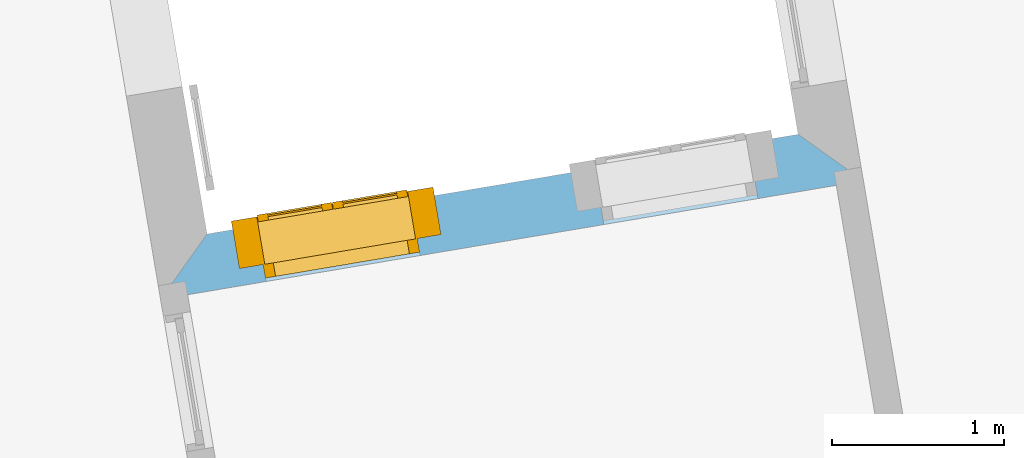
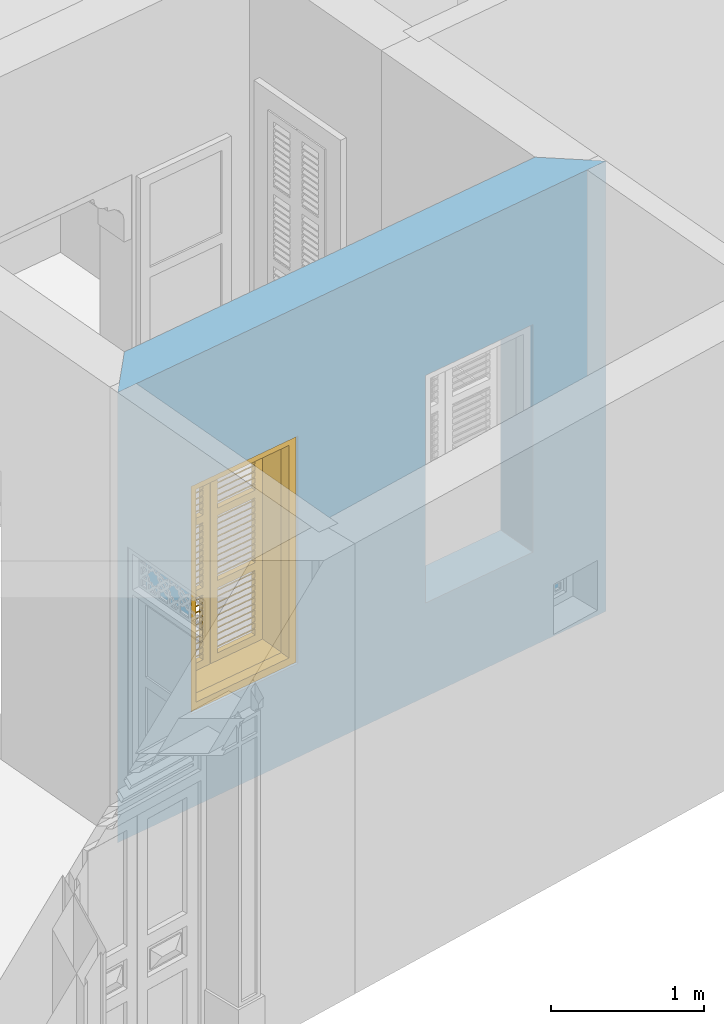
# One storey, part 7 of 15: 1 window, 2 openings, plus 1 element that does not belong to this part.
"""IFC4 building model written with IfcOpenShell, lengths in metres."""

from ifc_helpers import new_model, si_unit, frame, origin, origin_with_axes, place, context, subcontext, project, spatial, polyline, outline, extrude, faceted_brep, source, transform, mapped, material, layer, layer_set, layer_usage, type_object, type_shapes, element, fill, save


model = new_model("IFC4")

# Units and contexts
model_context = context("Model", 3, world=origin_with_axes())
body_context = subcontext(model_context, "Body", "Model", "MODEL_VIEW")
ifc_project = project(units=[si_unit("PLANEANGLEUNIT", "RADIAN"), si_unit("MASSUNIT", "GRAM", prefix="KILO"), si_unit("FORCEUNIT", "NEWTON", prefix="KILO"), si_unit("LENGTHUNIT", "METRE"), si_unit("AREAUNIT", "SQUARE_METRE"), si_unit("VOLUMEUNIT", "CUBIC_METRE")], contexts=[model_context, model_context])

# Site, building, storey
site_placement = place(None, origin_with_axes())
site = spatial("IfcSite", under=ifc_project, at=site_placement, Name="Site plot-6", CompositionType="ELEMENT")
building_placement = place(None, origin_with_axes())
building = spatial("IfcBuilding", under=site, at=building_placement, Name="Building plot-6", CompositionType="ELEMENT")
storey_placement = place(None, origin_with_axes())
storey = spatial("IfcBuildingStorey", under=building, at=storey_placement, Name="plot-6 0", CompositionType="ELEMENT", Elevation=0.0)

# Wall, openings, window
ifc_material = material(Name="Masonry")
ifc_layer = layer(ifc_material, 0.33, ventilated=False)
ifc_layer_set = layer_set([ifc_layer], Name="exterior_0.08_0.25")
ifc_layer_usage = layer_usage(ifc_layer_set, "AXIS2", "POSITIVE", -0.25)
wall_type = type_object("IfcWallType", Name="exterior_0.08_0.25", PredefinedType="SOLIDWALL", material=ifc_layer_set)
wall_placement = place(storey_placement, frame((-2.44228456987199, -0.0610171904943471, 0.0), z_axis=(0.0, 0.0, 1.0), x_axis=(-0.986076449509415, -0.166292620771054, 0.0)))
wall = element("IfcWall", 1, at=wall_placement, inside=storey, type_object=wall_type, material=ifc_layer_usage, Name="exterior", context=body_context, shape_type="SweptSolid", body=[
    extrude(outline(polyline([(-0.0799999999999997, 0.080000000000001), (0.249999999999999, -0.250000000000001), (3.73805094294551, -0.250000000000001), (4.06805094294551, 0.0799999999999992), (-0.0799999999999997, 0.080000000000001)])), origin_with_axes(), (0.0, 0.0, 1.0), 3.6),
])
opening_1_placement = place(wall_placement, frame((0.542012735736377, 0.0, 0.75)))
element("IfcOpeningElement", 2, at=opening_1_placement, cuts=wall, Name="My Opening", ObjectType="Opening", context=body_context, shape_type="SweptSolid", body=[
    extrude(outline(polyline([(0.0, -0.27), (0.91, -0.27), (0.91, 1.1), (0.0, 1.1), (0.0, -0.27)])), origin_with_axes(), (0.0, 0.0, 1.0), 1.82),
])
opening_2_placement = place(wall_placement, frame((2.53603820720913, 0.0, 0.75)))
opening_2 = element("IfcOpeningElement", 3, at=opening_2_placement, cuts=wall, Name="My Opening", ObjectType="Opening", context=body_context, shape_type="SweptSolid", body=[
    extrude(outline(polyline([(0.0, -0.27), (0.91, -0.27), (0.91, 1.1), (4.44089209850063e-16, 1.1), (0.0, -0.27)])), origin_with_axes(), (0.0, 0.0, 1.0), 1.82),
])
window_type = type_object("IfcWindowType", Name="shuttered_big", PartitioningType="DOUBLE_PANEL_HORIZONTAL", PredefinedType="NOTDEFINED")
shared_shape = source(origin(), body_context, "Body", "Brep", [
    faceted_brep([(0.074, 0.0, 0.810667), (0.393, 0.0, 0.810667), (0.393, 0.0, 0.800667), (0.074, 0.0, 0.800667), (0.074, -0.04, 0.770667), (0.393, -0.04, 0.770667), (0.393, -0.04, 0.760667), (0.074, -0.04, 0.760667), (0.517, 0.0, 0.232), (0.836, 0.0, 0.232), (0.836, 0.0, 0.222), (0.517, 0.0, 0.222), (0.517, -0.04, 0.192), (0.836, -0.04, 0.192), (0.836, -0.04, 0.182), (0.517, -0.04, 0.182), (0.517, 0.0, 0.532), (0.836, 0.0, 0.532), (0.836, 0.0, 0.522), (0.517, 0.0, 0.522), (0.517, -0.04, 0.492), (0.836, -0.04, 0.492), (0.836, -0.04, 0.482), (0.517, -0.04, 0.482), (0.517, 0.0, 0.482), (0.836, 0.0, 0.482), (0.836, 0.0, 0.472), (0.517, 0.0, 0.472), (0.517, -0.04, 0.442), (0.836, -0.04, 0.442), (0.836, -0.04, 0.432), (0.517, -0.04, 0.432), (0.517, 0.0, 0.582), (0.836, 0.0, 0.582), (0.836, 0.0, 0.572), (0.517, 0.0, 0.572), (0.517, -0.04, 0.542), (0.836, -0.04, 0.542), (0.836, -0.04, 0.532), (0.517, -0.04, 0.532), (0.517, 0.0, 0.182), (0.836, 0.0, 0.182), (0.836, 0.0, 0.172), (0.517, 0.0, 0.172), (0.517, -0.04, 0.142), (0.836, -0.04, 0.142), (0.836, -0.04, 0.132), (0.517, -0.04, 0.132), (0.517, 0.0, 0.382), (0.836, 0.0, 0.382), (0.836, 0.0, 0.372), (0.517, 0.0, 0.372), (0.517, -0.04, 0.342), (0.836, -0.04, 0.342), (0.836, -0.04, 0.332), (0.517, -0.04, 0.332), (0.517, 0.0, 0.432), (0.836, 0.0, 0.432), (0.836, 0.0, 0.422), (0.517, 0.0, 0.422), (0.517, -0.04, 0.392), (0.836, -0.04, 0.392), (0.836, -0.04, 0.382), (0.517, -0.04, 0.382), (0.517, 0.0, 0.132), (0.836, 0.0, 0.132), (0.836, 0.0, 0.122), (0.517, 0.0, 0.122), (0.517, -0.04, 0.092), (0.836, -0.04, 0.092), (0.836, -0.04, 0.082), (0.517, -0.04, 0.082), (0.517, 0.0, 0.282), (0.836, 0.0, 0.282), (0.836, 0.0, 0.272), (0.517, 0.0, 0.272), (0.517, -0.04, 0.242), (0.836, -0.04, 0.242), (0.836, -0.04, 0.232), (0.517, -0.04, 0.232), (0.517, 0.0, 0.332), (0.836, 0.0, 0.332), (0.836, 0.0, 0.322), (0.517, 0.0, 0.322), (0.517, -0.04, 0.292), (0.836, -0.04, 0.292), (0.836, -0.04, 0.282), (0.517, -0.04, 0.282), (0.517, 0.0, 0.810667), (0.836, 0.0, 0.810667), (0.836, 0.0, 0.800667), (0.517, 0.0, 0.800667), (0.517, -0.04, 0.770667), (0.836, -0.04, 0.770667), (0.836, -0.04, 0.760667), (0.517, -0.04, 0.760667), (0.517, 0.0, 1.110667), (0.836, 0.0, 1.110667), (0.836, 0.0, 1.100667), (0.517, 0.0, 1.100667), (0.517, -0.04, 1.070667), (0.836, -0.04, 1.070667), (0.836, -0.04, 1.060667), (0.517, -0.04, 1.060667), (0.517, 0.0, 1.060667), (0.836, 0.0, 1.060667), (0.836, 0.0, 1.050667), (0.517, 0.0, 1.050667), (0.517, -0.04, 1.020667), (0.836, -0.04, 1.020667), (0.836, -0.04, 1.010667), (0.517, -0.04, 1.010667), (0.517, 0.0, 1.160667), (0.836, 0.0, 1.160667), (0.836, 0.0, 1.150667), (0.517, 0.0, 1.150667), (0.517, -0.04, 1.120667), (0.836, -0.04, 1.120667), (0.836, -0.04, 1.110667), (0.517, -0.04, 1.110667), (0.517, 0.0, 0.760667), (0.836, 0.0, 0.760667), (0.836, 0.0, 0.750667), (0.517, 0.0, 0.750667), (0.517, -0.04, 0.720667), (0.836, -0.04, 0.720667), (0.836, -0.04, 0.710667), (0.517, -0.04, 0.710667), (0.517, 0.0, 0.960667), (0.836, 0.0, 0.960667), (0.836, 0.0, 0.950667), (0.517, 0.0, 0.950667), (0.517, -0.04, 0.920667), (0.836, -0.04, 0.920667), (0.836, -0.04, 0.910667), (0.517, -0.04, 0.910667), (0.517, 0.0, 1.010667), (0.836, 0.0, 1.010667), (0.836, 0.0, 1.0), (0.517, 0.0, 1.0), (0.517, -0.04, 0.970667), (0.836, -0.04, 0.970667), (0.836, -0.04, 0.960667), (0.517, -0.04, 0.960667), (0.517, 0.0, 0.710667), (0.836, 0.0, 0.710667), (0.836, 0.0, 0.700667), (0.517, 0.0, 0.700667), (0.517, -0.04, 0.670667), (0.836, -0.04, 0.670667), (0.836, -0.04, 0.660667), (0.517, -0.04, 0.660667), (0.517, 0.0, 0.860667), (0.836, 0.0, 0.860667), (0.836, 0.0, 0.850667), (0.517, 0.0, 0.850667), (0.517, -0.04, 0.820667), (0.836, -0.04, 0.820667), (0.836, -0.04, 0.810667), (0.517, -0.04, 0.810667), (0.517, 0.0, 0.910667), (0.836, 0.0, 0.910667), (0.836, 0.0, 0.900667), (0.517, 0.0, 0.900667), (0.517, -0.04, 0.870667), (0.836, -0.04, 0.870667), (0.836, -0.04, 0.860667), (0.517, -0.04, 0.860667), (0.517, 0.0, 1.389333), (0.836, 0.0, 1.389333), (0.836, 0.0, 1.379333), (0.517, 0.0, 1.379333), (0.517, -0.04, 1.349333), (0.836, -0.04, 1.349333), (0.836, -0.04, 1.339333), (0.517, -0.04, 1.339333), (0.517, 0.0, 1.689333), (0.836, 0.0, 1.689333), (0.836, 0.0, 1.679333), (0.517, 0.0, 1.679333), (0.517, -0.04, 1.649333), (0.836, -0.04, 1.649333), (0.836, -0.04, 1.639333), (0.517, -0.04, 1.639333), (0.517, 0.0, 1.639333), (0.836, 0.0, 1.639333), (0.836, 0.0, 1.629333), (0.517, 0.0, 1.629333), (0.517, -0.04, 1.599333), (0.836, -0.04, 1.599333), (0.836, -0.04, 1.589333), (0.517, -0.04, 1.589333), (0.517, 0.0, 1.739333), (0.836, 0.0, 1.739333), (0.836, 0.0, 1.729333), (0.517, 0.0, 1.729333), (0.517, -0.04, 1.699333), (0.836, -0.04, 1.699333), (0.836, -0.04, 1.689333), (0.517, -0.04, 1.689333), (0.517, 0.0, 1.339333), (0.836, 0.0, 1.339333), (0.836, 0.0, 1.329333), (0.517, 0.0, 1.329333), (0.517, -0.04, 1.299333), (0.836, -0.04, 1.299333), (0.836, -0.04, 1.289333), (0.517, -0.04, 1.289333), (0.517, 0.0, 1.539333), (0.836, 0.0, 1.539333), (0.836, 0.0, 1.529333), (0.517, 0.0, 1.529333), (0.517, -0.04, 1.499333), (0.836, -0.04, 1.499333), (0.836, -0.04, 1.489333), (0.517, -0.04, 1.489333), (0.517, 0.0, 1.589333), (0.836, 0.0, 1.589333), (0.836, 0.0, 1.579333), (0.517, 0.0, 1.579333), (0.517, -0.04, 1.549333), (0.836, -0.04, 1.549333), (0.836, -0.04, 1.539333), (0.517, -0.04, 1.539333), (0.517, 0.0, 1.289333), (0.836, 0.0, 1.289333), (0.836, 0.0, 1.279333), (0.517, 0.0, 1.279333), (0.517, -0.04, 1.249333), (0.836, -0.04, 1.249333), (0.836, -0.04, 1.239333), (0.517, -0.04, 1.239333), (0.517, 0.0, 1.439333), (0.836, 0.0, 1.439333), (0.836, 0.0, 1.429333), (0.517, 0.0, 1.429333), (0.517, -0.04, 1.399333), (0.836, -0.04, 1.399333), (0.836, -0.04, 1.389333), (0.517, -0.04, 1.389333), (0.517, 0.0, 1.489333), (0.836, 0.0, 1.489333), (0.836, 0.0, 1.479333), (0.517, 0.0, 1.479333), (0.517, -0.04, 1.449333), (0.836, -0.04, 1.449333), (0.836, -0.04, 1.439333), (0.517, -0.04, 1.439333), (0.074, 0.0, 0.232), (0.393, 0.0, 0.232), (0.393, 0.0, 0.222), (0.074, 0.0, 0.222), (0.074, -0.04, 0.192), (0.393, -0.04, 0.192), (0.393, -0.04, 0.182), (0.074, -0.04, 0.182), (0.074, 0.0, 0.532), (0.393, 0.0, 0.532), (0.393, 0.0, 0.522), (0.074, 0.0, 0.522), (0.074, -0.04, 0.492), (0.393, -0.04, 0.492), (0.393, -0.04, 0.482), (0.074, -0.04, 0.482), (0.074, 0.0, 0.482), (0.393, 0.0, 0.482), (0.393, 0.0, 0.472), (0.074, 0.0, 0.472), (0.074, -0.04, 0.442), (0.393, -0.04, 0.442), (0.393, -0.04, 0.432), (0.074, -0.04, 0.432), (0.074, 0.0, 0.582), (0.393, 0.0, 0.582), (0.393, 0.0, 0.572), (0.074, 0.0, 0.572), (0.074, -0.04, 0.542), (0.393, -0.04, 0.542), (0.393, -0.04, 0.532), (0.074, -0.04, 0.532), (0.074, 0.0, 0.182), (0.393, 0.0, 0.182), (0.393, 0.0, 0.172), (0.074, 0.0, 0.172), (0.074, -0.04, 0.142), (0.393, -0.04, 0.142), (0.393, -0.04, 0.132), (0.074, -0.04, 0.132), (0.074, 0.0, 0.382), (0.393, 0.0, 0.382), (0.393, 0.0, 0.372), (0.074, 0.0, 0.372), (0.074, -0.04, 0.342), (0.393, -0.04, 0.342), (0.393, -0.04, 0.332), (0.074, -0.04, 0.332), (0.074, 0.0, 0.432), (0.393, 0.0, 0.432), (0.393, 0.0, 0.422), (0.074, 0.0, 0.422), (0.074, -0.04, 0.392), (0.393, -0.04, 0.392), (0.393, -0.04, 0.382), (0.074, -0.04, 0.382), (0.074, 0.0, 0.132), (0.393, 0.0, 0.132), (0.393, 0.0, 0.122), (0.074, 0.0, 0.122), (0.074, -0.04, 0.092), (0.393, -0.04, 0.092), (0.393, -0.04, 0.082), (0.074, -0.04, 0.082), (0.074, 0.0, 0.282), (0.393, 0.0, 0.282), (0.393, 0.0, 0.272), (0.074, 0.0, 0.272), (0.074, -0.04, 0.242), (0.393, -0.04, 0.242), (0.393, -0.04, 0.232), (0.074, -0.04, 0.232), (0.074, 0.0, 0.332), (0.393, 0.0, 0.332), (0.393, 0.0, 0.322), (0.074, 0.0, 0.322), (0.074, -0.04, 0.292), (0.393, -0.04, 0.292), (0.393, -0.04, 0.282), (0.074, -0.04, 0.282), (0.074, 0.0, 1.110667), (0.393, 0.0, 1.110667), (0.393, 0.0, 1.100667), (0.074, 0.0, 1.100667), (0.074, -0.04, 1.070667), (0.393, -0.04, 1.070667), (0.393, -0.04, 1.060667), (0.074, -0.04, 1.060667), (0.074, 0.0, 1.060667), (0.393, 0.0, 1.060667), (0.393, 0.0, 1.050667), (0.074, 0.0, 1.050667), (0.074, -0.04, 1.020667), (0.393, -0.04, 1.020667), (0.393, -0.04, 1.010667), (0.074, -0.04, 1.010667), (0.074, 0.0, 1.160667), (0.393, 0.0, 1.160667), (0.393, 0.0, 1.150667), (0.074, 0.0, 1.150667), (0.074, -0.04, 1.120667), (0.393, -0.04, 1.120667), (0.393, -0.04, 1.110667), (0.074, -0.04, 1.110667), (0.074, 0.0, 0.760667), (0.393, 0.0, 0.760667), (0.393, 0.0, 0.750667), (0.074, 0.0, 0.750667), (0.074, -0.04, 0.720667), (0.393, -0.04, 0.720667), (0.393, -0.04, 0.710667), (0.074, -0.04, 0.710667), (0.074, 0.0, 0.960667), (0.393, 0.0, 0.960667), (0.393, 0.0, 0.950667), (0.074, 0.0, 0.950667), (0.074, -0.04, 0.920667), (0.393, -0.04, 0.920667), (0.393, -0.04, 0.910667), (0.074, -0.04, 0.910667), (0.074, 0.0, 1.010667), (0.393, 0.0, 1.010667), (0.393, 0.0, 1.0), (0.074, 0.0, 1.0), (0.074, -0.04, 0.970667), (0.393, -0.04, 0.970667), (0.393, -0.04, 0.960667), (0.074, -0.04, 0.960667), (0.074, 0.0, 0.710667), (0.393, 0.0, 0.710667), (0.393, 0.0, 0.700667), (0.074, 0.0, 0.700667), (0.074, -0.04, 0.670667), (0.393, -0.04, 0.670667), (0.393, -0.04, 0.660667), (0.074, -0.04, 0.660667), (0.074, 0.0, 0.860667), (0.393, 0.0, 0.860667), (0.393, 0.0, 0.850667), (0.074, 0.0, 0.850667), (0.074, -0.04, 0.820667), (0.393, -0.04, 0.820667), (0.393, -0.04, 0.810667), (0.074, -0.04, 0.810667), (0.074, 0.0, 0.910667), (0.393, 0.0, 0.910667), (0.393, 0.0, 0.900667), (0.074, 0.0, 0.900667), (0.074, -0.04, 0.870667), (0.393, -0.04, 0.870667), (0.393, -0.04, 0.860667), (0.074, -0.04, 0.860667), (0.074, 0.0, 1.389333), (0.393, 0.0, 1.389333), (0.393, 0.0, 1.379333), (0.074, 0.0, 1.379333), (0.074, -0.04, 1.349333), (0.393, -0.04, 1.349333), (0.393, -0.04, 1.339333), (0.074, -0.04, 1.339333), (0.074, 0.0, 1.689333), (0.393, 0.0, 1.689333), (0.393, 0.0, 1.679333), (0.074, 0.0, 1.679333), (0.074, -0.04, 1.649333), (0.393, -0.04, 1.649333), (0.393, -0.04, 1.639333), (0.074, -0.04, 1.639333), (0.074, 0.0, 1.639333), (0.393, 0.0, 1.639333), (0.393, 0.0, 1.629333), (0.074, 0.0, 1.629333), (0.074, -0.04, 1.599333), (0.393, -0.04, 1.599333), (0.393, -0.04, 1.589333), (0.074, -0.04, 1.589333), (0.074, 0.0, 1.739333), (0.393, 0.0, 1.739333), (0.393, 0.0, 1.729333), (0.074, 0.0, 1.729333), (0.074, -0.04, 1.699333), (0.393, -0.04, 1.699333), (0.393, -0.04, 1.689333), (0.074, -0.04, 1.689333), (0.074, 0.0, 1.339333), (0.393, 0.0, 1.339333), (0.393, 0.0, 1.329333), (0.074, 0.0, 1.329333), (0.074, -0.04, 1.299333), (0.393, -0.04, 1.299333), (0.393, -0.04, 1.289333), (0.074, -0.04, 1.289333), (0.074, 0.0, 1.539333), (0.393, 0.0, 1.539333), (0.393, 0.0, 1.529333), (0.074, 0.0, 1.529333), (0.074, -0.04, 1.499333), (0.393, -0.04, 1.499333), (0.393, -0.04, 1.489333), (0.074, -0.04, 1.489333), (0.074, 0.0, 1.589333), (0.393, 0.0, 1.589333), (0.393, 0.0, 1.579333), (0.074, 0.0, 1.579333), (0.074, -0.04, 1.549333), (0.393, -0.04, 1.549333), (0.393, -0.04, 1.539333), (0.074, -0.04, 1.539333), (0.074, 0.0, 1.289333), (0.393, 0.0, 1.289333), (0.393, 0.0, 1.279333), (0.074, 0.0, 1.279333), (0.074, -0.04, 1.249333), (0.393, -0.04, 1.249333), (0.393, -0.04, 1.239333), (0.074, -0.04, 1.239333), (0.074, 0.0, 1.439333), (0.393, 0.0, 1.439333), (0.393, 0.0, 1.429333), (0.074, 0.0, 1.429333), (0.074, -0.04, 1.399333), (0.393, -0.04, 1.399333), (0.393, -0.04, 1.389333), (0.074, -0.04, 1.389333), (0.074, 0.0, 1.489333), (0.393, 0.0, 1.489333), (0.393, 0.0, 1.479333), (0.074, 0.0, 1.479333), (0.074, -0.04, 1.449333), (0.393, -0.04, 1.449333), (0.393, -0.04, 1.439333), (0.074, -0.04, 1.439333), (0.517, -0.04, 0.072), (0.457, -0.04, 0.012), (0.896, -0.04, 0.012), (0.836, -0.04, 0.072), (0.457, -0.04, 0.590667), (0.517, -0.04, 0.590667), (0.457, 0.0, 0.012), (0.896, 0.0, 0.012), (0.836, -0.04, 0.590667), (0.896, -0.04, 0.590667), (0.836, 0.0, 0.072), (0.517, 0.0, 0.072), (0.457, 0.0, 0.590667), (0.517, 0.0, 0.590667), (0.517, -0.04, 0.650667), (0.457, -0.04, 0.650667), (0.896, 0.0, 0.590667), (0.836, 0.0, 0.590667), (0.836, -0.04, 0.650667), (0.896, -0.04, 0.650667), (0.457, 0.0, 0.650667), (0.457, -0.04, 1.169333), (0.517, -0.04, 1.169333), (0.896, 0.0, 0.650667), (0.836, -0.04, 1.169333), (0.896, -0.04, 1.169333), (0.457, 0.0, 1.169333), (0.517, 0.0, 0.650667), (0.836, 0.0, 0.650667), (0.517, 0.0, 1.169333), (0.517, -0.04, 1.229333), (0.457, -0.04, 1.229333), (0.896, 0.0, 1.169333), (0.836, 0.0, 1.169333), (0.836, -0.04, 1.229333), (0.896, -0.04, 1.229333), (0.457, 0.0, 1.229333), (0.517, -0.04, 1.748), (0.457, -0.04, 1.808), (0.896, 0.0, 1.229333), (0.896, -0.04, 1.808), (0.836, -0.04, 1.748), (0.457, 0.0, 1.808), (0.517, 0.0, 1.229333), (0.836, 0.0, 1.229333), (0.517, 0.0, 1.748), (0.896, 0.0, 1.808), (0.836, 0.0, 1.748), (0.074, -0.04, 0.072), (0.014, -0.04, 0.012), (0.453, -0.04, 0.012), (0.393, -0.04, 0.072), (0.014, -0.04, 0.590667), (0.074, -0.04, 0.590667), (0.014, 0.0, 0.012), (0.453, 0.0, 0.012), (0.393, -0.04, 0.590667), (0.453, -0.04, 0.590667), (0.393, 0.0, 0.072), (0.074, 0.0, 0.072), (0.014, 0.0, 0.590667), (0.074, 0.0, 0.590667), (0.074, -0.04, 0.650667), (0.014, -0.04, 0.650667), (0.453, 0.0, 0.590667), (0.393, 0.0, 0.590667), (0.393, -0.04, 0.650667), (0.453, -0.04, 0.650667), (0.014, 0.0, 0.650667), (0.014, -0.04, 1.169333), (0.074, -0.04, 1.169333), (0.453, 0.0, 0.650667), (0.393, -0.04, 1.169333), (0.453, -0.04, 1.169333), (0.014, 0.0, 1.169333), (0.074, 0.0, 0.650667), (0.393, 0.0, 0.650667), (0.074, 0.0, 1.169333), (0.074, -0.04, 1.229333), (0.014, -0.04, 1.229333), (0.453, 0.0, 1.169333), (0.393, 0.0, 1.169333), (0.393, -0.04, 1.229333), (0.453, -0.04, 1.229333), (0.014, 0.0, 1.229333), (0.074, -0.04, 1.748), (0.014, -0.04, 1.808), (0.453, 0.0, 1.229333), (0.453, -0.04, 1.808), (0.393, -0.04, 1.748), (0.014, 0.0, 1.808), (0.074, 0.0, 1.229333), (0.393, 0.0, 1.229333), (0.074, 0.0, 1.748), (0.453, 0.0, 1.808), (0.393, 0.0, 1.748), (0.0, 0.33, 1.82), (0.91, 0.33, 1.82), (0.85, 0.33, 1.76), (0.06, 0.33, 1.76), (1.05, -0.03, 1.96), (1.05, 0.25, 1.96), (-0.14, 0.25, 1.96), (-0.14, -0.03, 1.96), (0.0, 0.25, 1.82), (0.91, 0.25, 1.82), (0.9, 0.25, 1.81), (0.01, 0.25, 1.81), (0.85, 0.33, 0.06), (0.91, 0.33, 0.0), (0.85, 0.25, 1.76), (0.06, 0.25, 1.76), (0.0, 0.33, 0.0), (0.06, 0.33, 0.06), (0.0, 0.25, 0.0), (0.910046, 0.25, 1.82), (0.91, 0.25, 0.0), (0.85, 0.25, 0.06), (0.06, 0.25, 0.06), (0.9, 0.25, 0.01), (0.9, -0.03, 0.01), (0.9, -0.03, 1.81), (0.01, -0.03, 0.01), (-0.14, -0.03, -0.14), (1.05, -0.03, -0.14), (0.01, -0.03, 1.81), (0.01, 0.25, 0.01), (1.05, 0.25, -0.14), (-0.14, 0.25, -0.14)], [[[0, 1, 2, 3]], [[1, 0, 4, 5]], [[2, 1, 5, 6]], [[6, 7, 3, 2]], [[7, 4, 0, 3]], [[5, 4, 7, 6]], [[8, 9, 10, 11]], [[12, 13, 9, 8]], [[13, 14, 10, 9]], [[14, 15, 11, 10]], [[15, 12, 8, 11]], [[13, 12, 15, 14]], [[16, 17, 18, 19]], [[20, 21, 17, 16]], [[21, 22, 18, 17]], [[22, 23, 19, 18]], [[23, 20, 16, 19]], [[21, 20, 23, 22]], [[24, 25, 26, 27]], [[28, 29, 25, 24]], [[29, 30, 26, 25]], [[30, 31, 27, 26]], [[31, 28, 24, 27]], [[29, 28, 31, 30]], [[32, 33, 34, 35]], [[36, 37, 33, 32]], [[37, 38, 34, 33]], [[38, 39, 35, 34]], [[39, 36, 32, 35]], [[37, 36, 39, 38]], [[40, 41, 42, 43]], [[44, 45, 41, 40]], [[45, 46, 42, 41]], [[46, 47, 43, 42]], [[47, 44, 40, 43]], [[45, 44, 47, 46]], [[48, 49, 50, 51]], [[52, 53, 49, 48]], [[53, 54, 50, 49]], [[54, 55, 51, 50]], [[55, 52, 48, 51]], [[53, 52, 55, 54]], [[56, 57, 58, 59]], [[60, 61, 57, 56]], [[61, 62, 58, 57]], [[62, 63, 59, 58]], [[63, 60, 56, 59]], [[61, 60, 63, 62]], [[64, 65, 66, 67]], [[68, 69, 65, 64]], [[69, 70, 66, 65]], [[70, 71, 67, 66]], [[71, 68, 64, 67]], [[69, 68, 71, 70]], [[72, 73, 74, 75]], [[76, 77, 73, 72]], [[77, 78, 74, 73]], [[78, 79, 75, 74]], [[79, 76, 72, 75]], [[77, 76, 79, 78]], [[80, 81, 82, 83]], [[84, 85, 81, 80]], [[85, 86, 82, 81]], [[86, 87, 83, 82]], [[87, 84, 80, 83]], [[85, 84, 87, 86]], [[88, 89, 90, 91]], [[92, 93, 89, 88]], [[93, 94, 90, 89]], [[94, 95, 91, 90]], [[95, 92, 88, 91]], [[93, 92, 95, 94]], [[96, 97, 98, 99]], [[100, 101, 97, 96]], [[101, 102, 98, 97]], [[102, 103, 99, 98]], [[103, 100, 96, 99]], [[101, 100, 103, 102]], [[104, 105, 106, 107]], [[108, 109, 105, 104]], [[109, 110, 106, 105]], [[110, 111, 107, 106]], [[111, 108, 104, 107]], [[109, 108, 111, 110]], [[112, 113, 114, 115]], [[116, 117, 113, 112]], [[117, 118, 114, 113]], [[118, 119, 115, 114]], [[119, 116, 112, 115]], [[117, 116, 119, 118]], [[120, 121, 122, 123]], [[124, 125, 121, 120]], [[125, 126, 122, 121]], [[126, 127, 123, 122]], [[127, 124, 120, 123]], [[125, 124, 127, 126]], [[128, 129, 130, 131]], [[132, 133, 129, 128]], [[133, 134, 130, 129]], [[134, 135, 131, 130]], [[135, 132, 128, 131]], [[133, 132, 135, 134]], [[136, 137, 138, 139]], [[140, 141, 137, 136]], [[141, 142, 138, 137]], [[142, 143, 139, 138]], [[143, 140, 136, 139]], [[141, 140, 143, 142]], [[144, 145, 146, 147]], [[148, 149, 145, 144]], [[149, 150, 146, 145]], [[150, 151, 147, 146]], [[151, 148, 144, 147]], [[149, 148, 151, 150]], [[152, 153, 154, 155]], [[156, 157, 153, 152]], [[157, 158, 154, 153]], [[158, 159, 155, 154]], [[159, 156, 152, 155]], [[157, 156, 159, 158]], [[160, 161, 162, 163]], [[164, 165, 161, 160]], [[165, 166, 162, 161]], [[166, 167, 163, 162]], [[167, 164, 160, 163]], [[165, 164, 167, 166]], [[168, 169, 170, 171]], [[172, 173, 169, 168]], [[173, 174, 170, 169]], [[174, 175, 171, 170]], [[175, 172, 168, 171]], [[173, 172, 175, 174]], [[176, 177, 178, 179]], [[180, 181, 177, 176]], [[181, 182, 178, 177]], [[182, 183, 179, 178]], [[183, 180, 176, 179]], [[181, 180, 183, 182]], [[184, 185, 186, 187]], [[188, 189, 185, 184]], [[189, 190, 186, 185]], [[190, 191, 187, 186]], [[191, 188, 184, 187]], [[189, 188, 191, 190]], [[192, 193, 194, 195]], [[196, 197, 193, 192]], [[197, 198, 194, 193]], [[198, 199, 195, 194]], [[199, 196, 192, 195]], [[197, 196, 199, 198]], [[200, 201, 202, 203]], [[204, 205, 201, 200]], [[205, 206, 202, 201]], [[206, 207, 203, 202]], [[207, 204, 200, 203]], [[205, 204, 207, 206]], [[208, 209, 210, 211]], [[212, 213, 209, 208]], [[213, 214, 210, 209]], [[214, 215, 211, 210]], [[215, 212, 208, 211]], [[213, 212, 215, 214]], [[216, 217, 218, 219]], [[220, 221, 217, 216]], [[221, 222, 218, 217]], [[222, 223, 219, 218]], [[223, 220, 216, 219]], [[221, 220, 223, 222]], [[224, 225, 226, 227]], [[228, 229, 225, 224]], [[229, 230, 226, 225]], [[230, 231, 227, 226]], [[231, 228, 224, 227]], [[229, 228, 231, 230]], [[232, 233, 234, 235]], [[236, 237, 233, 232]], [[237, 238, 234, 233]], [[238, 239, 235, 234]], [[239, 236, 232, 235]], [[237, 236, 239, 238]], [[240, 241, 242, 243]], [[244, 245, 241, 240]], [[245, 246, 242, 241]], [[246, 247, 243, 242]], [[247, 244, 240, 243]], [[245, 244, 247, 246]], [[248, 249, 250, 251]], [[252, 253, 249, 248]], [[253, 254, 250, 249]], [[254, 255, 251, 250]], [[255, 252, 248, 251]], [[253, 252, 255, 254]], [[256, 257, 258, 259]], [[260, 261, 257, 256]], [[261, 262, 258, 257]], [[262, 263, 259, 258]], [[263, 260, 256, 259]], [[261, 260, 263, 262]], [[264, 265, 266, 267]], [[268, 269, 265, 264]], [[269, 270, 266, 265]], [[270, 271, 267, 266]], [[271, 268, 264, 267]], [[269, 268, 271, 270]], [[272, 273, 274, 275]], [[276, 277, 273, 272]], [[277, 278, 274, 273]], [[278, 279, 275, 274]], [[279, 276, 272, 275]], [[277, 276, 279, 278]], [[280, 281, 282, 283]], [[284, 285, 281, 280]], [[285, 286, 282, 281]], [[286, 287, 283, 282]], [[287, 284, 280, 283]], [[285, 284, 287, 286]], [[288, 289, 290, 291]], [[292, 293, 289, 288]], [[293, 294, 290, 289]], [[294, 295, 291, 290]], [[295, 292, 288, 291]], [[293, 292, 295, 294]], [[296, 297, 298, 299]], [[300, 301, 297, 296]], [[301, 302, 298, 297]], [[302, 303, 299, 298]], [[303, 300, 296, 299]], [[301, 300, 303, 302]], [[304, 305, 306, 307]], [[308, 309, 305, 304]], [[309, 310, 306, 305]], [[310, 311, 307, 306]], [[311, 308, 304, 307]], [[309, 308, 311, 310]], [[312, 313, 314, 315]], [[316, 317, 313, 312]], [[317, 318, 314, 313]], [[318, 319, 315, 314]], [[319, 316, 312, 315]], [[317, 316, 319, 318]], [[320, 321, 322, 323]], [[324, 325, 321, 320]], [[325, 326, 322, 321]], [[326, 327, 323, 322]], [[327, 324, 320, 323]], [[325, 324, 327, 326]], [[328, 329, 330, 331]], [[332, 333, 329, 328]], [[333, 334, 330, 329]], [[334, 335, 331, 330]], [[335, 332, 328, 331]], [[333, 332, 335, 334]], [[336, 337, 338, 339]], [[340, 341, 337, 336]], [[341, 342, 338, 337]], [[342, 343, 339, 338]], [[343, 340, 336, 339]], [[341, 340, 343, 342]], [[344, 345, 346, 347]], [[348, 349, 345, 344]], [[349, 350, 346, 345]], [[350, 351, 347, 346]], [[351, 348, 344, 347]], [[349, 348, 351, 350]], [[352, 353, 354, 355]], [[356, 357, 353, 352]], [[357, 358, 354, 353]], [[358, 359, 355, 354]], [[359, 356, 352, 355]], [[357, 356, 359, 358]], [[360, 361, 362, 363]], [[364, 365, 361, 360]], [[365, 366, 362, 361]], [[366, 367, 363, 362]], [[367, 364, 360, 363]], [[366, 365, 364, 367]], [[368, 369, 370, 371]], [[372, 373, 369, 368]], [[373, 374, 370, 369]], [[374, 375, 371, 370]], [[375, 372, 368, 371]], [[373, 372, 375, 374]], [[376, 377, 378, 379]], [[380, 381, 377, 376]], [[381, 382, 378, 377]], [[382, 383, 379, 378]], [[383, 380, 376, 379]], [[381, 380, 383, 382]], [[384, 385, 386, 387]], [[388, 389, 385, 384]], [[389, 390, 386, 385]], [[390, 391, 387, 386]], [[391, 388, 384, 387]], [[389, 388, 391, 390]], [[392, 393, 394, 395]], [[396, 397, 393, 392]], [[397, 398, 394, 393]], [[398, 399, 395, 394]], [[399, 396, 392, 395]], [[397, 396, 399, 398]], [[400, 401, 402, 403]], [[404, 405, 401, 400]], [[405, 406, 402, 401]], [[406, 407, 403, 402]], [[407, 404, 400, 403]], [[405, 404, 407, 406]], [[408, 409, 410, 411]], [[412, 413, 409, 408]], [[413, 414, 410, 409]], [[414, 415, 411, 410]], [[415, 412, 408, 411]], [[414, 413, 412, 415]], [[416, 417, 418, 419]], [[420, 421, 417, 416]], [[421, 422, 418, 417]], [[422, 423, 419, 418]], [[423, 420, 416, 419]], [[421, 420, 423, 422]], [[424, 425, 426, 427]], [[428, 429, 425, 424]], [[429, 430, 426, 425]], [[430, 431, 427, 426]], [[431, 428, 424, 427]], [[429, 428, 431, 430]], [[432, 433, 434, 435]], [[436, 437, 433, 432]], [[437, 438, 434, 433]], [[438, 439, 435, 434]], [[439, 436, 432, 435]], [[437, 436, 439, 438]], [[440, 441, 442, 443]], [[444, 445, 441, 440]], [[445, 446, 442, 441]], [[446, 447, 443, 442]], [[447, 444, 440, 443]], [[445, 444, 447, 446]], [[448, 449, 450, 451]], [[452, 453, 449, 448]], [[453, 454, 450, 449]], [[454, 455, 451, 450]], [[455, 452, 448, 451]], [[453, 452, 455, 454]], [[456, 457, 458, 459]], [[460, 461, 457, 456]], [[461, 462, 458, 457]], [[462, 463, 459, 458]], [[463, 460, 456, 459]], [[461, 460, 463, 462]], [[464, 465, 466, 467]], [[468, 469, 465, 464]], [[469, 470, 466, 465]], [[470, 471, 467, 466]], [[471, 468, 464, 467]], [[469, 468, 471, 470]], [[472, 473, 474, 475]], [[476, 477, 473, 472]], [[477, 478, 474, 473]], [[478, 479, 475, 474]], [[479, 476, 472, 475]], [[477, 476, 479, 478]], [[480, 481, 482, 483]], [[484, 481, 480, 485]], [[486, 487, 482, 481]], [[488, 483, 482, 489]], [[480, 483, 490, 491]], [[486, 481, 484, 492]], [[485, 480, 491, 493]], [[485, 494, 495, 484]], [[486, 491, 490, 487]], [[496, 489, 482, 487]], [[483, 488, 497, 490]], [[498, 488, 489, 499]], [[492, 484, 495, 500]], [[486, 492, 493, 491]], [[488, 485, 493, 497]], [[494, 485, 488, 498]], [[501, 495, 494, 502]], [[490, 497, 496, 487]], [[503, 499, 489, 496]], [[504, 498, 499, 505]], [[500, 495, 501, 506]], [[507, 493, 492, 500]], [[493, 507, 508, 497]], [[494, 498, 508, 507]], [[502, 494, 507, 509]], [[502, 510, 511, 501]], [[497, 508, 503, 496]], [[512, 505, 499, 503]], [[498, 504, 513, 508]], [[514, 504, 505, 515]], [[506, 501, 511, 516]], [[500, 506, 509, 507]], [[504, 502, 509, 513]], [[510, 502, 504, 514]], [[510, 517, 518, 511]], [[508, 513, 512, 503]], [[519, 515, 505, 512]], [[515, 520, 521, 514]], [[516, 511, 518, 522]], [[523, 509, 506, 516]], [[509, 523, 524, 513]], [[510, 514, 524, 523]], [[517, 510, 523, 525]], [[518, 517, 521, 520]], [[513, 524, 519, 512]], [[526, 520, 515, 519]], [[514, 521, 527, 524]], [[522, 518, 520, 526]], [[525, 523, 516, 522]], [[521, 517, 525, 527]], [[526, 519, 524, 527]], [[525, 522, 526, 527]], [[528, 529, 530, 531]], [[532, 529, 528, 533]], [[534, 535, 530, 529]], [[536, 531, 530, 537]], [[528, 531, 538, 539]], [[534, 529, 532, 540]], [[533, 528, 539, 541]], [[533, 542, 543, 532]], [[534, 539, 538, 535]], [[544, 537, 530, 535]], [[531, 536, 545, 538]], [[546, 536, 537, 547]], [[540, 532, 543, 548]], [[534, 540, 541, 539]], [[536, 533, 541, 545]], [[542, 533, 536, 546]], [[549, 543, 542, 550]], [[538, 545, 544, 535]], [[551, 547, 537, 544]], [[552, 546, 547, 553]], [[548, 543, 549, 554]], [[555, 541, 540, 548]], [[541, 555, 556, 545]], [[542, 546, 556, 555]], [[550, 542, 555, 557]], [[550, 558, 559, 549]], [[545, 556, 551, 544]], [[560, 553, 547, 551]], [[546, 552, 561, 556]], [[562, 552, 553, 563]], [[554, 549, 559, 564]], [[548, 554, 557, 555]], [[552, 550, 557, 561]], [[558, 550, 552, 562]], [[558, 565, 566, 559]], [[556, 561, 560, 551]], [[567, 563, 553, 560]], [[563, 568, 569, 562]], [[564, 559, 566, 570]], [[571, 557, 554, 564]], [[557, 571, 572, 561]], [[558, 562, 572, 571]], [[565, 558, 571, 573]], [[566, 565, 569, 568]], [[561, 572, 567, 560]], [[574, 568, 563, 567]], [[562, 569, 575, 572]], [[570, 566, 568, 574]], [[573, 571, 564, 570]], [[569, 565, 573, 575]], [[574, 567, 572, 575]], [[573, 570, 574, 575]], [[576, 577, 578, 579]], [[580, 581, 582, 583]], [[576, 584, 585, 577]], [[582, 581, 586, 587]], [[588, 578, 577, 589]], [[579, 578, 590, 591]], [[592, 576, 579, 593]], [[576, 592, 594, 584]], [[595, 584, 591, 590]], [[596, 585, 595]], [[595, 590, 597]], [[595, 597, 596]], [[589, 577, 585, 596]], [[578, 588, 597, 590]], [[589, 592, 593, 588]], [[593, 579, 591, 598]], [[592, 589, 596, 594]], [[598, 591, 584, 594]], [[594, 596, 597, 598]], [[588, 593, 598, 597]], [[599, 600, 601, 586]], [[602, 603, 604, 600]], [[601, 605, 587, 586]], [[600, 599, 606, 602]], [[607, 604, 603, 608]], [[599, 607, 608, 606]], [[605, 602, 606, 587]], [[602, 605, 583, 603]], [[600, 604, 580, 601]], [[580, 583, 605, 601]], [[606, 608, 582, 587]], [[599, 586, 581, 607]], [[582, 608, 603, 583]], [[580, 604, 607, 581]]]),
])
type_shapes(window_type, [shared_shape])
window_placement = place(storey_placement, frame((-4.98791112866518, -0.216500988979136, 0.75), z_axis=(0.0, 0.0, 1.0), x_axis=(-0.897329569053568, -0.151326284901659, 0.0)))
window = element("IfcWindow", 4, at=window_placement, inside=storey, type_object=window_type, Name="toilet sahn window", OverallHeight=1.82, OverallWidth=0.91, context=body_context, shape_type="MappedRepresentation", body=[
    mapped(shared_shape, transform((0.0, 0.0, 0.0), scale=1.0)),
])
fill(opening_2, window)

save(model, "model.ifc")
